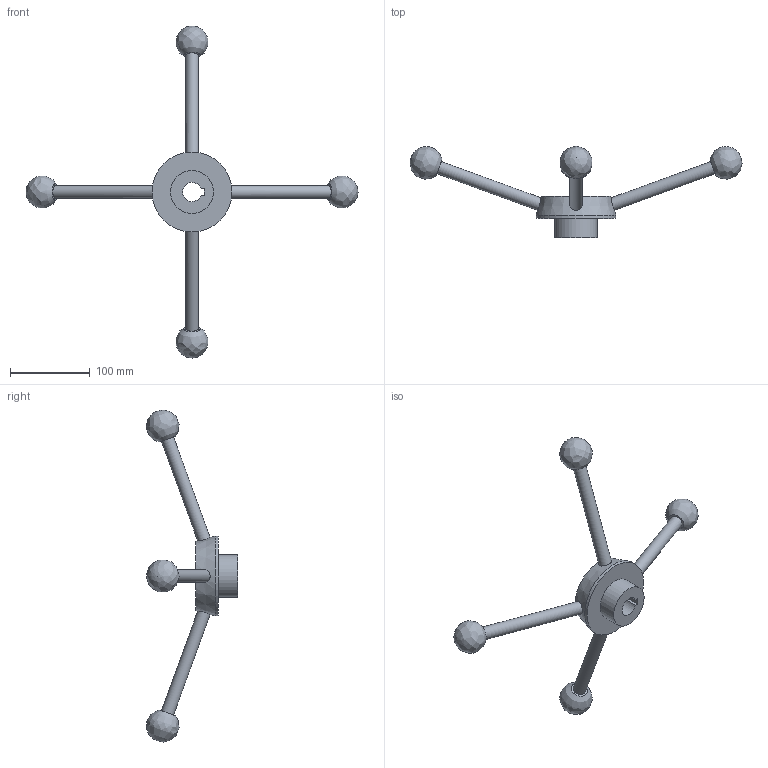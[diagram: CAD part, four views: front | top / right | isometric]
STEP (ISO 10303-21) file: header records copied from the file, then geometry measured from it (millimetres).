
FILE_DESCRIPTION( ( 'STEP AP203' ), '1' );
FILE_NAME( 'C:/Temp/Ganter_Step_05_03_2020/data/2_1/gn_213/gn_213_k/Turret lever GN 213-100-K24.stp', '2020-03-05T11:51:14', ( 'License CC BY-ND 4.0' ), ( 'CADENAS' ), ' ', 'PARTsolutions', ' ' );
FILE_SCHEMA( ( 'CONFIG_CONTROL_DESIGN' ) );
Length unit declared in the file: millimetre
Products named in the file (1): _Turret lever GN 213-100-K24
Bounding box: 415.3 x 113.97 x 415.3 mm (x, y, z)
Volume: 472311.4 mm3; surface area: 75733.2 mm2
Topology: 1 solids, 1 shells, 22 faces, 50 edges, 34 vertices
Faces by surface type: plane 10, cylinder 7, bspline 4, cone 1
Full cylindrical faces by diameter (mm): 16 x4, 54 x1, 100 x1
Entity records: 984 total; most frequent: CARTESIAN_POINT 541, DIRECTION 78, ORIENTED_EDGE 58, EDGE_LOOP 40, AXIS2_PLACEMENT_3D 34, VERTEX_POINT 29, EDGE_CURVE 29, FACE_OUTER_BOUND 28
